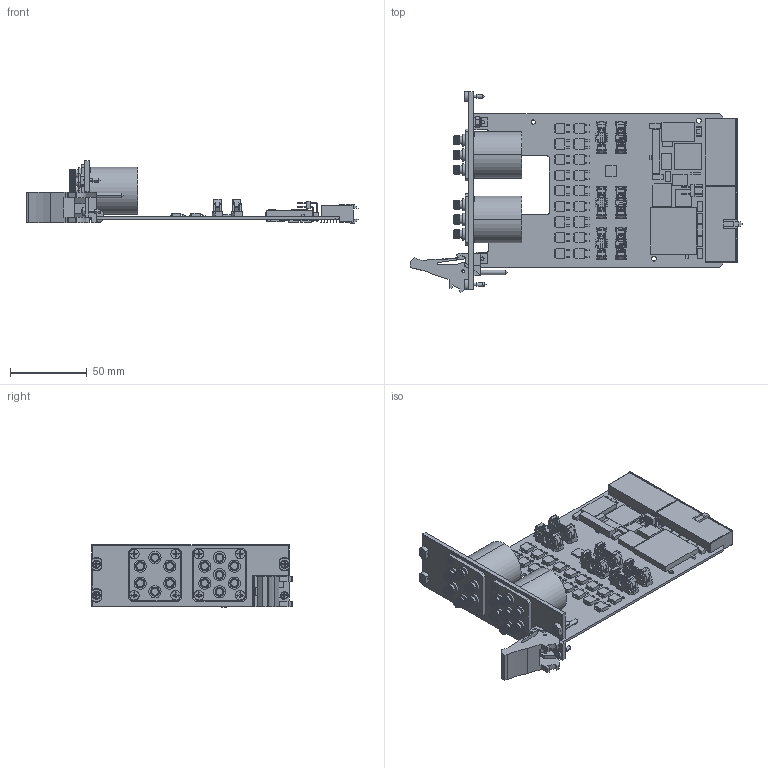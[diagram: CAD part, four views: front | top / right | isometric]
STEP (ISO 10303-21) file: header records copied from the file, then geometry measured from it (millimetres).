
FILE_DESCRIPTION((''),'2;1');
FILE_NAME('CCA_PXI_2596_SW0001','2008-05-30T',('scarrasc'),(''),'PRO/ENGINEER BY PARAMETRIC TECHNOLOGY CORPORATION, 2006080','PRO/ENGINEER BY PARAMETRIC TECHNOLOGY CORPORATION, 2006080','');
FILE_SCHEMA(('CONFIG_CONTROL_DESIGN'));
Products named in the file (1): CCA_PXI_2596_SW0001
Bounding box: 216.08 x 130.61 x 40.51 mm (x, y, z)
Volume: 130221.4 mm3; surface area: 75795 mm2
Topology: 1 solids, 1 shells, 7164 faces, 18963 edges, 11853 vertices
Faces by surface type: plane 5379, cylinder 929, cone 666, extrusion 72, sphere 64, bspline 44, torus 10
Entity records: 226611 total; most frequent: CARTESIAN_POINT 47472, ORIENTED_EDGE 37830, DIRECTION 35770, EDGE_CURVE 18915, VECTOR 15730, LINE 15658, VERTEX_POINT 12043, AXIS2_PLACEMENT_3D 10020
